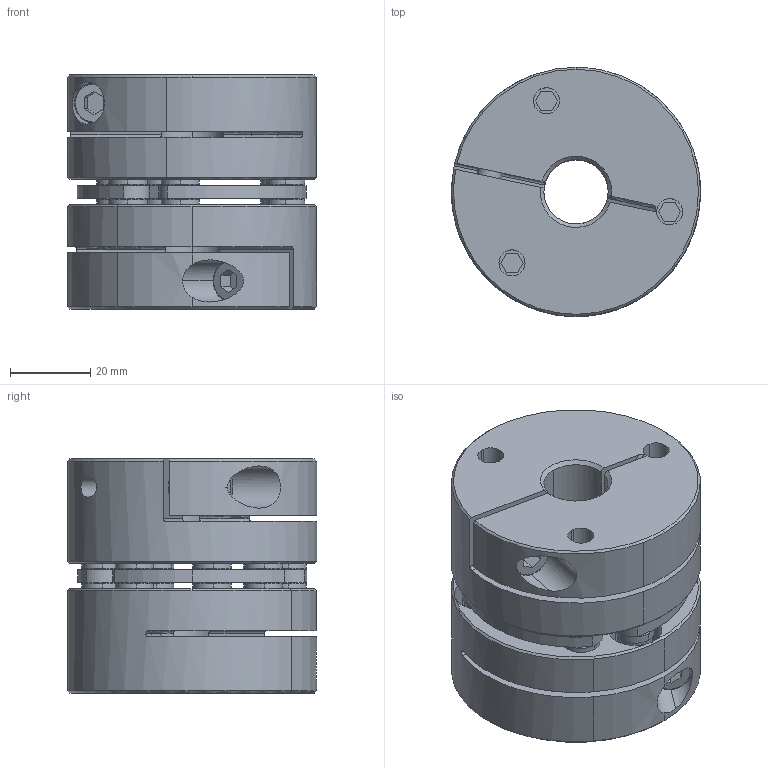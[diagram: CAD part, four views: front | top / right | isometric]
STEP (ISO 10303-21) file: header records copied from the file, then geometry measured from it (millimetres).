
FILE_DESCRIPTION((''),'2;1');
FILE_NAME('6A22-A1C','2019-02-14T',('SYSTEM'),(''),'PRO/ENGINEER BY PARAMETRIC TECHNOLOGY CORPORATION, 2016360','PRO/ENGINEER BY PARAMETRIC TECHNOLOGY CORPORATION, 2016360','');
FILE_SCHEMA(('AUTOMOTIVE_DESIGN { 1 0 10303 214 1 1 1 1 }'));
Length unit declared in the file: inch
Products named in the file (1): 6A22-A1C
Bounding box: 62 x 62 x 58.25 mm (x, y, z)
Volume: 136373.4 mm3; surface area: 45051.5 mm2
Topology: 1 solids, 11 shells, 596 faces, 1721 edges, 1174 vertices
Faces by surface type: cylinder 292, plane 130, cone 128, torus 46
Entity records: 25942 total; most frequent: DIRECTION 3907, CARTESIAN_POINT 3803, ORIENTED_EDGE 3406, PRESENTATION_STYLE_ASSIGNMENT 1725, STYLED_ITEM 1704, CURVE_STYLE 1703, EDGE_CURVE 1703, AXIS2_PLACEMENT_3D 1661
